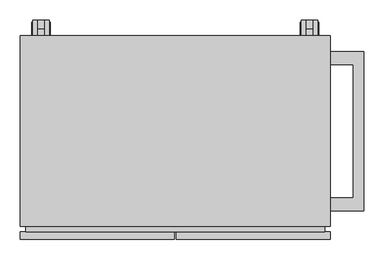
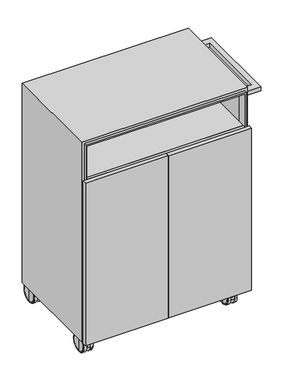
"""IFC4 building model written with IfcOpenShell, lengths in millimetres: furniture geometry, Steelcase Coalesse - Exponents - Storage - Moby : 19 3/4D X 30W X 42H."""

from ifc_helpers import new_model, si_unit, point, frame, frame_2d, origin, place, context, project, spatial, polyline, circle_curve, ellipse_curve, trimmed, segment, composite_curve, outline, extrude, faceted_brep, source, transform, mapped, element, save
from ifc_brep_helpers import plane_surface, cylinder_surface, revolved_surface, advanced_brep


def furniture_e831200a(model_context):
    return source(origin(), model_context, "Body", "SolidModel", [
        advanced_brep(
        [(27.94, 497.8146, 77.57023), (27.94, 497.8146, 7.16417), (27.94, 497.8146, 42.3672), (28.1659176, 497.8146, 79.7959885), (28.1659176, 497.8146, 4.9384115), (30.8610356, 497.8146, 82.9149652), (30.8610356, 497.8146, 1.8194348), (30.8610356, 497.8146, 84.7344), (30.8610356, 497.8146, 0.0), (41.6052, 497.8146, 84.7344), (41.6052, 497.8146, 0.0), (41.6052, 497.8146, 70.1188345), (41.6052, 497.8146, 14.6155655), (43.18, 497.8146, 70.1188345), (43.18, 497.8146, 14.6155655), (43.18, 497.8146, 42.3672)],
        [
            (0, 1, circle_curve(frame((27.94, 497.8146, 42.3672), z_axis=(-1.0, 0.0, 0.0), x_axis=(0.0, 0.0, -1.0)), 35.20303)),
            (1, 2),
            (2, 0),
            (1, 0, circle_curve(frame((27.94, 497.8146, 42.3672), z_axis=(-1.0, 0.0, 0.0), x_axis=(0.0, 0.0, -1.0)), 35.20303)),
            (3, 4, circle_curve(frame((28.1659176, 497.8146, 42.3672), z_axis=(-1.0, 0.0, 0.0), x_axis=(0.0, 0.0, -1.0)), 37.4287885)),
            (4, 1, circle_curve(frame((39.0171352, 497.8146, 7.16417), z_axis=(0.0, 1.0, 0.0), x_axis=(1.0, 0.0, 0.0)), 11.0771352)),
            (0, 3, circle_curve(frame((39.0171352, 497.8146, 77.57023), z_axis=(0.0, 1.0, 0.0), x_axis=(1.0, 0.0, 0.0)), 11.0771352)),
            (4, 3, circle_curve(frame((28.1659176, 497.8146, 42.3672), z_axis=(-1.0, 0.0, 0.0), x_axis=(0.0, 0.0, -1.0)), 37.4287885)),
            (5, 6, circle_curve(frame((30.8610356, 497.8146, 42.3672), z_axis=(-1.0, 0.0, 0.0), x_axis=(0.0, 0.0, -1.0)), 40.5477652)),
            (6, 4, circle_curve(frame((32.2994094, 497.8146, 5.7862568), z_axis=(0.0, 1.0, 0.0), x_axis=(1.0, 0.0, 0.0)), 4.2195493)),
            (3, 5, circle_curve(frame((32.2994094, 497.8146, 78.9481432), z_axis=(0.0, 1.0, 0.0), x_axis=(1.0, 0.0, 0.0)), 4.2195493)),
            (6, 5, circle_curve(frame((30.8610356, 497.8146, 42.3672), z_axis=(-1.0, 0.0, 0.0), x_axis=(0.0, 0.0, -1.0)), 40.5477652)),
            (7, 8, circle_curve(frame((30.8610356, 497.8146, 42.3672), z_axis=(-1.0, 0.0, 0.0), x_axis=(0.0, 0.0, -1.0)), 42.3672)),
            (8, 6),
            (5, 7),
            (8, 7, circle_curve(frame((30.8610356, 497.8146, 42.3672), z_axis=(-1.0, 0.0, 0.0), x_axis=(0.0, 0.0, -1.0)), 42.3672)),
            (9, 10, circle_curve(frame((41.6052, 497.8146, 42.3672), z_axis=(-1.0, 0.0, 0.0), x_axis=(0.0, 0.0, -1.0)), 42.3672)),
            (10, 8),
            (7, 9),
            (10, 9, circle_curve(frame((41.6052, 497.8146, 42.3672), z_axis=(-1.0, 0.0, 0.0), x_axis=(0.0, 0.0, -1.0)), 42.3672)),
            (11, 12, circle_curve(frame((41.6052, 497.8146, 42.3672), z_axis=(-1.0, 0.0, 0.0), x_axis=(0.0, 0.0, -1.0)), 27.7516345)),
            (12, 10),
            (9, 11),
            (12, 11, circle_curve(frame((41.6052, 497.8146, 42.3672), z_axis=(-1.0, 0.0, 0.0), x_axis=(0.0, 0.0, -1.0)), 27.7516345)),
            (13, 14, circle_curve(frame((43.18, 497.8146, 42.3672), z_axis=(-1.0, 0.0, 0.0), x_axis=(0.0, 0.0, -1.0)), 27.7516345)),
            (14, 12),
            (11, 13),
            (14, 13, circle_curve(frame((43.18, 497.8146, 42.3672), z_axis=(-1.0, 0.0, 0.0), x_axis=(0.0, 0.0, -1.0)), 27.7516345)),
            (15, 14),
            (13, 15),
        ],
        [
            plane_surface(frame((27.94, 497.8146, 42.3672), z_axis=(-1.0, 0.0, 0.0), x_axis=(0.0, 0.0, -1.0))),
            revolved_surface(trimmed(ellipse_curve(frame((39.0171352, 497.8146, 7.16417), z_axis=(0.0, -1.0, 0.0), x_axis=(1.0, 0.0, 0.0)), 11.0771352, 11.0771352), [point((27.94, 497.8146, 7.16417))], [point((28.1659176, 497.8146, 4.9384115))], True, "CARTESIAN"), (27.94, 497.8146, 42.3672), (1.0, 0.0, 0.0)),
            revolved_surface(trimmed(ellipse_curve(frame((32.2994094, 497.8146, 5.7862568), z_axis=(0.0, -1.0, 0.0), x_axis=(1.0, 0.0, 0.0)), 4.2195493, 4.2195493), [point((28.1659176, 497.8146, 4.9384115))], [point((30.8610356, 497.8146, 1.8194348))], True, "CARTESIAN"), (27.94, 497.8146, 42.3672), (1.0, 0.0, 0.0)),
            plane_surface(frame((30.8610356, 497.8146, 42.3672), z_axis=(-1.0, 0.0, 0.0), x_axis=(0.0, 0.0, -1.0))),
            cylinder_surface(frame((27.94, 497.8146, 42.3672), z_axis=(1.0, 0.0, 0.0), x_axis=(0.0, 0.0, -1.0)), 42.3672),
            plane_surface(frame((41.6052, 497.8146, 42.3672), z_axis=(1.0, 0.0, 0.0), x_axis=(0.0, 0.0, -1.0))),
            cylinder_surface(frame((27.94, 497.8146, 42.3672), z_axis=(1.0, 0.0, 0.0), x_axis=(0.0, 0.0, -1.0)), 27.7516345),
            plane_surface(frame((43.18, 497.8146, 42.3672), z_axis=(1.0, 0.0, 0.0), x_axis=(0.0, 0.0, -1.0))),
        ],
        [
            (0, [[1, 2, 3]]),
            (0, [[4, -3, -2]]),
            (1, [[5, 6, -1, 7]]),
            (1, [[8, -7, -4, -6]]),
            (2, [[9, 10, -5, 11]]),
            (2, [[12, -11, -8, -10]]),
            (3, [[13, 14, -9, 15]]),
            (3, [[16, -15, -12, -14]]),
            (4, [[17, 18, -13, 19]]),
            (4, [[20, -19, -16, -18]]),
            (5, [[21, 22, -17, 23]]),
            (5, [[24, -23, -20, -22]]),
            (6, [[25, 26, -21, 27]]),
            (6, [[28, -27, -24, -26]]),
            (7, [[29, -25, 30]]),
            (7, [[-30, -28, -29]]),
        ],
    ),
        extrude(outline(composite_curve([segment(polyline([(530.225, 37.9984), (455.7241881, 37.9984)]), True, "CONTINUOUS"), segment(trimmed(circle_curve(frame_2d((499.8868014, 39.2316684)), 44.1798299), [point((455.7241881, 37.9984))], [point((518.939747, 79.0919573))], False, "CARTESIAN"), True, "CONTINUOUS"), segment(trimmed(circle_curve(frame_2d((497.8199262, 42.3720906)), 42.360305), [point((518.939747, 79.0919573))], [point((530.225, 15.090107))], False, "CARTESIAN"), True, "CONTINUOUS"), segment(polyline([(530.225, 15.090107), (530.225, 37.9984)]), True, "CONTINUOUS")], self_intersect=False)), frame((43.18, 0.0, 0.0), z_axis=(1.0, 0.0, 0.0), x_axis=(0.0, 1.0, 0.0)), (0.0, 0.0, 1.0), 15.24),
        extrude(outline(composite_curve([segment(trimmed(circle_curve(frame_2d((50.8111483, 463.4713876)), 7.6088517), [point((43.2022966, 463.4713876))], [point((58.42, 463.4713876))], False, "CARTESIAN"), True, "CONTINUOUS"), segment(trimmed(circle_curve(frame_2d((50.8111483, 463.4713876)), 7.6088517), [point((58.42, 463.4713876))], [point((43.2022966, 463.4713876))], False, "CARTESIAN"), True, "CONTINUOUS")], self_intersect=False)), frame((0.0, 0.0, 49.9773023), z_axis=(0.0, 0.0, 1.0), x_axis=(1.0, 0.0, 0.0)), (0.0, 0.0, 1.0), 48.3206977),
        extrude(outline(polyline([(78.359, 491.109), (78.359, 435.991), (23.241, 435.991), (23.241, 491.109), (78.359, 491.109)])), frame((0.0, 0.0, 98.298), z_axis=(0.0, 0.0, 1.0), x_axis=(1.0, 0.0, 0.0)), (0.0, 0.0, 1.0), 3.302),
        advanced_brep(
        [(58.42, 497.8146, 70.1188345), (58.42, 497.8146, 14.6155655), (58.42, 497.8146, 42.3672), (59.9948, 497.8146, 70.1188345), (59.9948, 497.8146, 14.6155655), (59.9948, 497.8146, 84.7344), (59.9948, 497.8146, 0.0), (70.7389644, 497.8146, 84.7344), (70.7389644, 497.8146, 0.0), (70.7389644, 497.8146, 82.9149652), (70.7389644, 497.8146, 1.8194348), (73.4340824, 497.8146, 79.7959885), (73.4340824, 497.8146, 4.9384115), (73.66, 497.8146, 77.57023), (73.66, 497.8146, 7.16417), (73.66, 497.8146, 42.3672)],
        [
            (0, 1, circle_curve(frame((58.42, 497.8146, 42.3672), z_axis=(-1.0, 0.0, 0.0), x_axis=(0.0, 0.0, -1.0)), 27.7516345)),
            (1, 2),
            (2, 0),
            (1, 0, circle_curve(frame((58.42, 497.8146, 42.3672), z_axis=(-1.0, 0.0, 0.0), x_axis=(0.0, 0.0, -1.0)), 27.7516345)),
            (3, 4, circle_curve(frame((59.9948, 497.8146, 42.3672), z_axis=(-1.0, 0.0, 0.0), x_axis=(0.0, 0.0, -1.0)), 27.7516345)),
            (4, 1),
            (0, 3),
            (4, 3, circle_curve(frame((59.9948, 497.8146, 42.3672), z_axis=(-1.0, 0.0, 0.0), x_axis=(0.0, 0.0, -1.0)), 27.7516345)),
            (5, 6, circle_curve(frame((59.9948, 497.8146, 42.3672), z_axis=(-1.0, 0.0, 0.0), x_axis=(0.0, 0.0, -1.0)), 42.3672)),
            (6, 4),
            (3, 5),
            (6, 5, circle_curve(frame((59.9948, 497.8146, 42.3672), z_axis=(-1.0, 0.0, 0.0), x_axis=(0.0, 0.0, -1.0)), 42.3672)),
            (7, 8, circle_curve(frame((70.7389644, 497.8146, 42.3672), z_axis=(-1.0, 0.0, 0.0), x_axis=(0.0, 0.0, -1.0)), 42.3672)),
            (8, 6),
            (5, 7),
            (8, 7, circle_curve(frame((70.7389644, 497.8146, 42.3672), z_axis=(-1.0, 0.0, 0.0), x_axis=(0.0, 0.0, -1.0)), 42.3672)),
            (9, 10, circle_curve(frame((70.7389644, 497.8146, 42.3672), z_axis=(-1.0, 0.0, 0.0), x_axis=(0.0, 0.0, -1.0)), 40.5477652)),
            (10, 8),
            (7, 9),
            (10, 9, circle_curve(frame((70.7389644, 497.8146, 42.3672), z_axis=(-1.0, 0.0, 0.0), x_axis=(0.0, 0.0, -1.0)), 40.5477652)),
            (11, 12, circle_curve(frame((73.4340824, 497.8146, 42.3672), z_axis=(-1.0, 0.0, 0.0), x_axis=(0.0, 0.0, -1.0)), 37.4287885)),
            (12, 10, circle_curve(frame((69.3005906, 497.8146, 5.7862568), z_axis=(0.0, 1.0, 0.0), x_axis=(-1.0, 0.0, 0.0)), 4.2195493)),
            (9, 11, circle_curve(frame((69.3005906, 497.8146, 78.9481432), z_axis=(0.0, 1.0, 0.0), x_axis=(-1.0, 0.0, 0.0)), 4.2195493)),
            (12, 11, circle_curve(frame((73.4340824, 497.8146, 42.3672), z_axis=(-1.0, 0.0, 0.0), x_axis=(0.0, 0.0, -1.0)), 37.4287885)),
            (13, 14, circle_curve(frame((73.66, 497.8146, 42.3672), z_axis=(-1.0, 0.0, 0.0), x_axis=(0.0, 0.0, -1.0)), 35.20303)),
            (14, 12, circle_curve(frame((62.5828648, 497.8146, 7.16417), z_axis=(0.0, 1.0, 0.0), x_axis=(-1.0, 0.0, 0.0)), 11.0771352)),
            (11, 13, circle_curve(frame((62.5828648, 497.8146, 77.57023), z_axis=(0.0, 1.0, 0.0), x_axis=(-1.0, 0.0, 0.0)), 11.0771352)),
            (14, 13, circle_curve(frame((73.66, 497.8146, 42.3672), z_axis=(-1.0, 0.0, 0.0), x_axis=(0.0, 0.0, -1.0)), 35.20303)),
            (15, 14),
            (13, 15),
        ],
        [
            plane_surface(frame((58.42, 497.8146, 42.3672), z_axis=(-1.0, 0.0, 0.0), x_axis=(0.0, 0.0, -1.0))),
            cylinder_surface(frame((73.66, 497.8146, 42.3672), z_axis=(1.0, 0.0, 0.0), x_axis=(0.0, 0.0, -1.0)), 27.7516345),
            plane_surface(frame((59.9948, 497.8146, 42.3672), z_axis=(-1.0, 0.0, 0.0), x_axis=(0.0, 0.0, -1.0))),
            cylinder_surface(frame((73.66, 497.8146, 42.3672), z_axis=(1.0, 0.0, 0.0), x_axis=(0.0, 0.0, -1.0)), 42.3672),
            plane_surface(frame((70.7389644, 497.8146, 42.3672), z_axis=(1.0, 0.0, 0.0), x_axis=(0.0, 0.0, -1.0))),
            revolved_surface(trimmed(ellipse_curve(frame((69.3005906, 497.8146, 5.7862568), z_axis=(0.0, -1.0, 0.0), x_axis=(-1.0, 0.0, 0.0)), 4.2195493, 4.2195493), [point((70.7389644, 497.8146, 1.8194348))], [point((73.4340824, 497.8146, 4.9384115))], True, "CARTESIAN"), (73.66, 497.8146, 42.3672), (1.0, 0.0, 0.0)),
            revolved_surface(trimmed(ellipse_curve(frame((62.5828648, 497.8146, 7.16417), z_axis=(0.0, -1.0, 0.0), x_axis=(-1.0, 0.0, 0.0)), 11.0771352, 11.0771352), [point((73.4340824, 497.8146, 4.9384115))], [point((73.66, 497.8146, 7.16417))], True, "CARTESIAN"), (73.66, 497.8146, 42.3672), (1.0, 0.0, 0.0)),
            plane_surface(frame((73.66, 497.8146, 42.3672), z_axis=(1.0, 0.0, 0.0), x_axis=(0.0, 0.0, -1.0))),
        ],
        [
            (0, [[1, 2, 3]]),
            (0, [[4, -3, -2]]),
            (1, [[5, 6, -1, 7]]),
            (1, [[8, -7, -4, -6]]),
            (2, [[9, 10, -5, 11]]),
            (2, [[12, -11, -8, -10]]),
            (3, [[13, 14, -9, 15]]),
            (3, [[16, -15, -12, -14]]),
            (4, [[17, 18, -13, 19]]),
            (4, [[20, -19, -16, -18]]),
            (5, [[21, 22, -17, 23]]),
            (5, [[24, -23, -20, -22]]),
            (6, [[25, 26, -21, 27]]),
            (6, [[28, -27, -24, -26]]),
            (7, [[29, -25, 30]]),
            (7, [[-30, -28, -29]]),
        ],
    ),
        advanced_brep(
        [(27.94, 104.1146, 77.57023), (27.94, 104.1146, 7.16417), (27.94, 104.1146, 42.3672), (28.1659176, 104.1146, 79.7959885), (28.1659176, 104.1146, 4.9384115), (30.8610356, 104.1146, 82.9149652), (30.8610356, 104.1146, 1.8194348), (30.8610356, 104.1146, 84.7344), (30.8610356, 104.1146, 0.0), (41.6052, 104.1146, 84.7344), (41.6052, 104.1146, 0.0), (41.6052, 104.1146, 70.1188345), (41.6052, 104.1146, 14.6155655), (43.18, 104.1146, 70.1188345), (43.18, 104.1146, 14.6155655), (43.18, 104.1146, 42.3672)],
        [
            (0, 1, circle_curve(frame((27.94, 104.1146, 42.3672), z_axis=(-1.0, 0.0, 0.0), x_axis=(0.0, 0.0, -1.0)), 35.20303)),
            (1, 2),
            (2, 0),
            (1, 0, circle_curve(frame((27.94, 104.1146, 42.3672), z_axis=(-1.0, 0.0, 0.0), x_axis=(0.0, 0.0, -1.0)), 35.20303)),
            (3, 4, circle_curve(frame((28.1659176, 104.1146, 42.3672), z_axis=(-1.0, 0.0, 0.0), x_axis=(0.0, 0.0, -1.0)), 37.4287885)),
            (4, 1, circle_curve(frame((39.0171352, 104.1146, 7.16417), z_axis=(0.0, 1.0, 0.0), x_axis=(1.0, 0.0, 0.0)), 11.0771352)),
            (0, 3, circle_curve(frame((39.0171352, 104.1146, 77.57023), z_axis=(0.0, 1.0, 0.0), x_axis=(1.0, 0.0, 0.0)), 11.0771352)),
            (4, 3, circle_curve(frame((28.1659176, 104.1146, 42.3672), z_axis=(-1.0, 0.0, 0.0), x_axis=(0.0, 0.0, -1.0)), 37.4287885)),
            (5, 6, circle_curve(frame((30.8610356, 104.1146, 42.3672), z_axis=(-1.0, 0.0, 0.0), x_axis=(0.0, 0.0, -1.0)), 40.5477652)),
            (6, 4, circle_curve(frame((32.2994094, 104.1146, 5.7862568), z_axis=(0.0, 1.0, 0.0), x_axis=(1.0, 0.0, 0.0)), 4.2195493)),
            (3, 5, circle_curve(frame((32.2994094, 104.1146, 78.9481432), z_axis=(0.0, 1.0, 0.0), x_axis=(1.0, 0.0, 0.0)), 4.2195493)),
            (6, 5, circle_curve(frame((30.8610356, 104.1146, 42.3672), z_axis=(-1.0, 0.0, 0.0), x_axis=(0.0, 0.0, -1.0)), 40.5477652)),
            (7, 8, circle_curve(frame((30.8610356, 104.1146, 42.3672), z_axis=(-1.0, 0.0, 0.0), x_axis=(0.0, 0.0, -1.0)), 42.3672)),
            (8, 6),
            (5, 7),
            (8, 7, circle_curve(frame((30.8610356, 104.1146, 42.3672), z_axis=(-1.0, 0.0, 0.0), x_axis=(0.0, 0.0, -1.0)), 42.3672)),
            (9, 10, circle_curve(frame((41.6052, 104.1146, 42.3672), z_axis=(-1.0, 0.0, 0.0), x_axis=(0.0, 0.0, -1.0)), 42.3672)),
            (10, 8),
            (7, 9),
            (10, 9, circle_curve(frame((41.6052, 104.1146, 42.3672), z_axis=(-1.0, 0.0, 0.0), x_axis=(0.0, 0.0, -1.0)), 42.3672)),
            (11, 12, circle_curve(frame((41.6052, 104.1146, 42.3672), z_axis=(-1.0, 0.0, 0.0), x_axis=(0.0, 0.0, -1.0)), 27.7516345)),
            (12, 10),
            (9, 11),
            (12, 11, circle_curve(frame((41.6052, 104.1146, 42.3672), z_axis=(-1.0, 0.0, 0.0), x_axis=(0.0, 0.0, -1.0)), 27.7516345)),
            (13, 14, circle_curve(frame((43.18, 104.1146, 42.3672), z_axis=(-1.0, 0.0, 0.0), x_axis=(0.0, 0.0, -1.0)), 27.7516345)),
            (14, 12),
            (11, 13),
            (14, 13, circle_curve(frame((43.18, 104.1146, 42.3672), z_axis=(-1.0, 0.0, 0.0), x_axis=(0.0, 0.0, -1.0)), 27.7516345)),
            (15, 14),
            (13, 15),
        ],
        [
            plane_surface(frame((27.94, 104.1146, 42.3672), z_axis=(-1.0, 0.0, 0.0), x_axis=(0.0, 0.0, -1.0))),
            revolved_surface(trimmed(ellipse_curve(frame((39.0171352, 104.1146, 7.16417), z_axis=(0.0, -1.0, 0.0), x_axis=(1.0, 0.0, 0.0)), 11.0771352, 11.0771352), [point((27.94, 104.1146, 7.16417))], [point((28.1659176, 104.1146, 4.9384115))], True, "CARTESIAN"), (27.94, 104.1146, 42.3672), (1.0, 0.0, 0.0)),
            revolved_surface(trimmed(ellipse_curve(frame((32.2994094, 104.1146, 5.7862568), z_axis=(0.0, -1.0, 0.0), x_axis=(1.0, 0.0, 0.0)), 4.2195493, 4.2195493), [point((28.1659176, 104.1146, 4.9384115))], [point((30.8610356, 104.1146, 1.8194348))], True, "CARTESIAN"), (27.94, 104.1146, 42.3672), (1.0, 0.0, 0.0)),
            plane_surface(frame((30.8610356, 104.1146, 42.3672), z_axis=(-1.0, 0.0, 0.0), x_axis=(0.0, 0.0, -1.0))),
            cylinder_surface(frame((27.94, 104.1146, 42.3672), z_axis=(1.0, 0.0, 0.0), x_axis=(0.0, 0.0, -1.0)), 42.3672),
            plane_surface(frame((41.6052, 104.1146, 42.3672), z_axis=(1.0, 0.0, 0.0), x_axis=(0.0, 0.0, -1.0))),
            cylinder_surface(frame((27.94, 104.1146, 42.3672), z_axis=(1.0, 0.0, 0.0), x_axis=(0.0, 0.0, -1.0)), 27.7516345),
            plane_surface(frame((43.18, 104.1146, 42.3672), z_axis=(1.0, 0.0, 0.0), x_axis=(0.0, 0.0, -1.0))),
        ],
        [
            (0, [[1, 2, 3]]),
            (0, [[4, -3, -2]]),
            (1, [[5, 6, -1, 7]]),
            (1, [[8, -7, -4, -6]]),
            (2, [[9, 10, -5, 11]]),
            (2, [[12, -11, -8, -10]]),
            (3, [[13, 14, -9, 15]]),
            (3, [[16, -15, -12, -14]]),
            (4, [[17, 18, -13, 19]]),
            (4, [[20, -19, -16, -18]]),
            (5, [[21, 22, -17, 23]]),
            (5, [[24, -23, -20, -22]]),
            (6, [[25, 26, -21, 27]]),
            (6, [[28, -27, -24, -26]]),
            (7, [[29, -25, 30]]),
            (7, [[-30, -28, -29]]),
        ],
    ),
        extrude(outline(composite_curve([segment(polyline([(136.525, 37.9984), (62.0241881, 37.9984)]), True, "CONTINUOUS"), segment(trimmed(circle_curve(frame_2d((106.1868014, 39.2316684)), 44.1798299), [point((62.0241881, 37.9984))], [point((125.239747, 79.0919573))], False, "CARTESIAN"), True, "CONTINUOUS"), segment(trimmed(circle_curve(frame_2d((104.1199262, 42.3720906)), 42.360305), [point((125.239747, 79.0919573))], [point((136.525, 15.090107))], False, "CARTESIAN"), True, "CONTINUOUS"), segment(polyline([(136.525, 15.090107), (136.525, 37.9984)]), True, "CONTINUOUS")], self_intersect=False)), frame((43.18, 0.0, 0.0), z_axis=(1.0, 0.0, 0.0), x_axis=(0.0, 1.0, 0.0)), (0.0, 0.0, 1.0), 15.24),
        extrude(outline(composite_curve([segment(trimmed(circle_curve(frame_2d((50.8111483, 69.7713876)), 7.6088517), [point((43.2022966, 69.7713876))], [point((58.42, 69.7713876))], False, "CARTESIAN"), True, "CONTINUOUS"), segment(trimmed(circle_curve(frame_2d((50.8111483, 69.7713876)), 7.6088517), [point((58.42, 69.7713876))], [point((43.2022966, 69.7713876))], False, "CARTESIAN"), True, "CONTINUOUS")], self_intersect=False)), frame((0.0, 0.0, 49.9773023), z_axis=(0.0, 0.0, 1.0), x_axis=(1.0, 0.0, 0.0)), (0.0, 0.0, 1.0), 48.3206977),
        extrude(outline(polyline([(78.359, 97.409), (78.359, 42.291), (23.241, 42.291), (23.241, 97.409), (78.359, 97.409)])), frame((0.0, 0.0, 98.298), z_axis=(0.0, 0.0, 1.0), x_axis=(1.0, 0.0, 0.0)), (0.0, 0.0, 1.0), 3.302),
        advanced_brep(
        [(58.42, 104.1146, 70.1188345), (58.42, 104.1146, 14.6155655), (58.42, 104.1146, 42.3672), (59.9948, 104.1146, 70.1188345), (59.9948, 104.1146, 14.6155655), (59.9948, 104.1146, 84.7344), (59.9948, 104.1146, 0.0), (70.7389644, 104.1146, 84.7344), (70.7389644, 104.1146, 0.0), (70.7389644, 104.1146, 82.9149652), (70.7389644, 104.1146, 1.8194348), (73.4340824, 104.1146, 79.7959885), (73.4340824, 104.1146, 4.9384115), (73.66, 104.1146, 77.57023), (73.66, 104.1146, 7.16417), (73.66, 104.1146, 42.3672)],
        [
            (0, 1, circle_curve(frame((58.42, 104.1146, 42.3672), z_axis=(-1.0, 0.0, 0.0), x_axis=(0.0, 0.0, -1.0)), 27.7516345)),
            (1, 2),
            (2, 0),
            (1, 0, circle_curve(frame((58.42, 104.1146, 42.3672), z_axis=(-1.0, 0.0, 0.0), x_axis=(0.0, 0.0, -1.0)), 27.7516345)),
            (3, 4, circle_curve(frame((59.9948, 104.1146, 42.3672), z_axis=(-1.0, 0.0, 0.0), x_axis=(0.0, 0.0, -1.0)), 27.7516345)),
            (4, 1),
            (0, 3),
            (4, 3, circle_curve(frame((59.9948, 104.1146, 42.3672), z_axis=(-1.0, 0.0, 0.0), x_axis=(0.0, 0.0, -1.0)), 27.7516345)),
            (5, 6, circle_curve(frame((59.9948, 104.1146, 42.3672), z_axis=(-1.0, 0.0, 0.0), x_axis=(0.0, 0.0, -1.0)), 42.3672)),
            (6, 4),
            (3, 5),
            (6, 5, circle_curve(frame((59.9948, 104.1146, 42.3672), z_axis=(-1.0, 0.0, 0.0), x_axis=(0.0, 0.0, -1.0)), 42.3672)),
            (7, 8, circle_curve(frame((70.7389644, 104.1146, 42.3672), z_axis=(-1.0, 0.0, 0.0), x_axis=(0.0, 0.0, -1.0)), 42.3672)),
            (8, 6),
            (5, 7),
            (8, 7, circle_curve(frame((70.7389644, 104.1146, 42.3672), z_axis=(-1.0, 0.0, 0.0), x_axis=(0.0, 0.0, -1.0)), 42.3672)),
            (9, 10, circle_curve(frame((70.7389644, 104.1146, 42.3672), z_axis=(-1.0, 0.0, 0.0), x_axis=(0.0, 0.0, -1.0)), 40.5477652)),
            (10, 8),
            (7, 9),
            (10, 9, circle_curve(frame((70.7389644, 104.1146, 42.3672), z_axis=(-1.0, 0.0, 0.0), x_axis=(0.0, 0.0, -1.0)), 40.5477652)),
            (11, 12, circle_curve(frame((73.4340824, 104.1146, 42.3672), z_axis=(-1.0, 0.0, 0.0), x_axis=(0.0, 0.0, -1.0)), 37.4287885)),
            (12, 10, circle_curve(frame((69.3005906, 104.1146, 5.7862568), z_axis=(0.0, 1.0, 0.0), x_axis=(-1.0, 0.0, 0.0)), 4.2195493)),
            (9, 11, circle_curve(frame((69.3005906, 104.1146, 78.9481432), z_axis=(0.0, 1.0, 0.0), x_axis=(-1.0, 0.0, 0.0)), 4.2195493)),
            (12, 11, circle_curve(frame((73.4340824, 104.1146, 42.3672), z_axis=(-1.0, 0.0, 0.0), x_axis=(0.0, 0.0, -1.0)), 37.4287885)),
            (13, 14, circle_curve(frame((73.66, 104.1146, 42.3672), z_axis=(-1.0, 0.0, 0.0), x_axis=(0.0, 0.0, -1.0)), 35.20303)),
            (14, 12, circle_curve(frame((62.5828648, 104.1146, 7.16417), z_axis=(0.0, 1.0, 0.0), x_axis=(-1.0, 0.0, 0.0)), 11.0771352)),
            (11, 13, circle_curve(frame((62.5828648, 104.1146, 77.57023), z_axis=(0.0, 1.0, 0.0), x_axis=(-1.0, 0.0, 0.0)), 11.0771352)),
            (14, 13, circle_curve(frame((73.66, 104.1146, 42.3672), z_axis=(-1.0, 0.0, 0.0), x_axis=(0.0, 0.0, -1.0)), 35.20303)),
            (15, 14),
            (13, 15),
        ],
        [
            plane_surface(frame((58.42, 104.1146, 42.3672), z_axis=(-1.0, 0.0, 0.0), x_axis=(0.0, 0.0, -1.0))),
            cylinder_surface(frame((73.66, 104.1146, 42.3672), z_axis=(1.0, 0.0, 0.0), x_axis=(0.0, 0.0, -1.0)), 27.7516345),
            plane_surface(frame((59.9948, 104.1146, 42.3672), z_axis=(-1.0, 0.0, 0.0), x_axis=(0.0, 0.0, -1.0))),
            cylinder_surface(frame((73.66, 104.1146, 42.3672), z_axis=(1.0, 0.0, 0.0), x_axis=(0.0, 0.0, -1.0)), 42.3672),
            plane_surface(frame((70.7389644, 104.1146, 42.3672), z_axis=(1.0, 0.0, 0.0), x_axis=(0.0, 0.0, -1.0))),
            revolved_surface(trimmed(ellipse_curve(frame((69.3005906, 104.1146, 5.7862568), z_axis=(0.0, -1.0, 0.0), x_axis=(-1.0, 0.0, 0.0)), 4.2195493, 4.2195493), [point((70.7389644, 104.1146, 1.8194348))], [point((73.4340824, 104.1146, 4.9384115))], True, "CARTESIAN"), (73.66, 104.1146, 42.3672), (1.0, 0.0, 0.0)),
            revolved_surface(trimmed(ellipse_curve(frame((62.5828648, 104.1146, 7.16417), z_axis=(0.0, -1.0, 0.0), x_axis=(-1.0, 0.0, 0.0)), 11.0771352, 11.0771352), [point((73.4340824, 104.1146, 4.9384115))], [point((73.66, 104.1146, 7.16417))], True, "CARTESIAN"), (73.66, 104.1146, 42.3672), (1.0, 0.0, 0.0)),
            plane_surface(frame((73.66, 104.1146, 42.3672), z_axis=(1.0, 0.0, 0.0), x_axis=(0.0, 0.0, -1.0))),
        ],
        [
            (0, [[1, 2, 3]]),
            (0, [[4, -3, -2]]),
            (1, [[5, 6, -1, 7]]),
            (1, [[8, -7, -4, -6]]),
            (2, [[9, 10, -5, 11]]),
            (2, [[12, -11, -8, -10]]),
            (3, [[13, 14, -9, 15]]),
            (3, [[16, -15, -12, -14]]),
            (4, [[17, 18, -13, 19]]),
            (4, [[20, -19, -16, -18]]),
            (5, [[21, 22, -17, 23]]),
            (5, [[24, -23, -20, -22]]),
            (6, [[25, 26, -21, 27]]),
            (6, [[28, -27, -24, -26]]),
            (7, [[29, -25, 30]]),
            (7, [[-30, -28, -29]]),
        ],
    ),
        advanced_brep(
        [(688.34, 497.8146, 77.57023), (688.34, 497.8146, 7.16417), (688.34, 497.8146, 42.3672), (688.5659176, 497.8146, 79.7959885), (688.5659176, 497.8146, 4.9384115), (691.2610356, 497.8146, 82.9149652), (691.2610356, 497.8146, 1.8194348), (691.2610356, 497.8146, 84.7344), (691.2610356, 497.8146, 0.0), (702.0052, 497.8146, 84.7344), (702.0052, 497.8146, 0.0), (702.0052, 497.8146, 70.1188345), (702.0052, 497.8146, 14.6155655), (703.58, 497.8146, 70.1188345), (703.58, 497.8146, 14.6155655), (703.58, 497.8146, 42.3672)],
        [
            (0, 1, circle_curve(frame((688.34, 497.8146, 42.3672), z_axis=(-1.0, 0.0, 0.0), x_axis=(0.0, 0.0, -1.0)), 35.20303)),
            (1, 2),
            (2, 0),
            (1, 0, circle_curve(frame((688.34, 497.8146, 42.3672), z_axis=(-1.0, 0.0, 0.0), x_axis=(0.0, 0.0, -1.0)), 35.20303)),
            (3, 4, circle_curve(frame((688.5659176, 497.8146, 42.3672), z_axis=(-1.0, 0.0, 0.0), x_axis=(0.0, 0.0, -1.0)), 37.4287885)),
            (4, 1, circle_curve(frame((699.4171352, 497.8146, 7.16417), z_axis=(0.0, 1.0, 0.0), x_axis=(1.0, 0.0, 0.0)), 11.0771352)),
            (0, 3, circle_curve(frame((699.4171352, 497.8146, 77.57023), z_axis=(0.0, 1.0, 0.0), x_axis=(1.0, 0.0, 0.0)), 11.0771352)),
            (4, 3, circle_curve(frame((688.5659176, 497.8146, 42.3672), z_axis=(-1.0, 0.0, 0.0), x_axis=(0.0, 0.0, -1.0)), 37.4287885)),
            (5, 6, circle_curve(frame((691.2610356, 497.8146, 42.3672), z_axis=(-1.0, 0.0, 0.0), x_axis=(0.0, 0.0, -1.0)), 40.5477652)),
            (6, 4, circle_curve(frame((692.6994094, 497.8146, 5.7862568), z_axis=(0.0, 1.0, 0.0), x_axis=(1.0, 0.0, 0.0)), 4.2195493)),
            (3, 5, circle_curve(frame((692.6994094, 497.8146, 78.9481432), z_axis=(0.0, 1.0, 0.0), x_axis=(1.0, 0.0, 0.0)), 4.2195493)),
            (6, 5, circle_curve(frame((691.2610356, 497.8146, 42.3672), z_axis=(-1.0, 0.0, 0.0), x_axis=(0.0, 0.0, -1.0)), 40.5477652)),
            (7, 8, circle_curve(frame((691.2610356, 497.8146, 42.3672), z_axis=(-1.0, 0.0, 0.0), x_axis=(0.0, 0.0, -1.0)), 42.3672)),
            (8, 6),
            (5, 7),
            (8, 7, circle_curve(frame((691.2610356, 497.8146, 42.3672), z_axis=(-1.0, 0.0, 0.0), x_axis=(0.0, 0.0, -1.0)), 42.3672)),
            (9, 10, circle_curve(frame((702.0052, 497.8146, 42.3672), z_axis=(-1.0, 0.0, 0.0), x_axis=(0.0, 0.0, -1.0)), 42.3672)),
            (10, 8),
            (7, 9),
            (10, 9, circle_curve(frame((702.0052, 497.8146, 42.3672), z_axis=(-1.0, 0.0, 0.0), x_axis=(0.0, 0.0, -1.0)), 42.3672)),
            (11, 12, circle_curve(frame((702.0052, 497.8146, 42.3672), z_axis=(-1.0, 0.0, 0.0), x_axis=(0.0, 0.0, -1.0)), 27.7516345)),
            (12, 10),
            (9, 11),
            (12, 11, circle_curve(frame((702.0052, 497.8146, 42.3672), z_axis=(-1.0, 0.0, 0.0), x_axis=(0.0, 0.0, -1.0)), 27.7516345)),
            (13, 14, circle_curve(frame((703.58, 497.8146, 42.3672), z_axis=(-1.0, 0.0, 0.0), x_axis=(0.0, 0.0, -1.0)), 27.7516345)),
            (14, 12),
            (11, 13),
            (14, 13, circle_curve(frame((703.58, 497.8146, 42.3672), z_axis=(-1.0, 0.0, 0.0), x_axis=(0.0, 0.0, -1.0)), 27.7516345)),
            (15, 14),
            (13, 15),
        ],
        [
            plane_surface(frame((688.34, 497.8146, 42.3672), z_axis=(-1.0, 0.0, 0.0), x_axis=(0.0, 0.0, -1.0))),
            revolved_surface(trimmed(ellipse_curve(frame((699.4171352, 497.8146, 7.16417), z_axis=(0.0, -1.0, 0.0), x_axis=(1.0, 0.0, 0.0)), 11.0771352, 11.0771352), [point((688.34, 497.8146, 7.16417))], [point((688.5659176, 497.8146, 4.9384115))], True, "CARTESIAN"), (688.34, 497.8146, 42.3672), (1.0, 0.0, 0.0)),
            revolved_surface(trimmed(ellipse_curve(frame((692.6994094, 497.8146, 5.7862568), z_axis=(0.0, -1.0, 0.0), x_axis=(1.0, 0.0, 0.0)), 4.2195493, 4.2195493), [point((688.5659176, 497.8146, 4.9384115))], [point((691.2610356, 497.8146, 1.8194348))], True, "CARTESIAN"), (688.34, 497.8146, 42.3672), (1.0, 0.0, 0.0)),
            plane_surface(frame((691.2610356, 497.8146, 42.3672), z_axis=(-1.0, 0.0, 0.0), x_axis=(0.0, 0.0, -1.0))),
            cylinder_surface(frame((688.34, 497.8146, 42.3672), z_axis=(1.0, 0.0, 0.0), x_axis=(0.0, 0.0, -1.0)), 42.3672),
            plane_surface(frame((702.0052, 497.8146, 42.3672), z_axis=(1.0, 0.0, 0.0), x_axis=(0.0, 0.0, -1.0))),
            cylinder_surface(frame((688.34, 497.8146, 42.3672), z_axis=(1.0, 0.0, 0.0), x_axis=(0.0, 0.0, -1.0)), 27.7516345),
            plane_surface(frame((703.58, 497.8146, 42.3672), z_axis=(1.0, 0.0, 0.0), x_axis=(0.0, 0.0, -1.0))),
        ],
        [
            (0, [[1, 2, 3]]),
            (0, [[4, -3, -2]]),
            (1, [[5, 6, -1, 7]]),
            (1, [[8, -7, -4, -6]]),
            (2, [[9, 10, -5, 11]]),
            (2, [[12, -11, -8, -10]]),
            (3, [[13, 14, -9, 15]]),
            (3, [[16, -15, -12, -14]]),
            (4, [[17, 18, -13, 19]]),
            (4, [[20, -19, -16, -18]]),
            (5, [[21, 22, -17, 23]]),
            (5, [[24, -23, -20, -22]]),
            (6, [[25, 26, -21, 27]]),
            (6, [[28, -27, -24, -26]]),
            (7, [[29, -25, 30]]),
            (7, [[-30, -28, -29]]),
        ],
    ),
        extrude(outline(composite_curve([segment(polyline([(530.225, 37.9984), (455.7241881, 37.9984)]), True, "CONTINUOUS"), segment(trimmed(circle_curve(frame_2d((499.8868014, 39.2316684)), 44.1798299), [point((455.7241881, 37.9984))], [point((518.939747, 79.0919573))], False, "CARTESIAN"), True, "CONTINUOUS"), segment(trimmed(circle_curve(frame_2d((497.8199262, 42.3720906)), 42.360305), [point((518.939747, 79.0919573))], [point((530.225, 15.090107))], False, "CARTESIAN"), True, "CONTINUOUS"), segment(polyline([(530.225, 15.090107), (530.225, 37.9984)]), True, "CONTINUOUS")], self_intersect=False)), frame((703.58, 0.0, 0.0), z_axis=(1.0, 0.0, 0.0), x_axis=(0.0, 1.0, 0.0)), (0.0, 0.0, 1.0), 15.24),
        extrude(outline(composite_curve([segment(trimmed(circle_curve(frame_2d((711.2111483, 463.4713876)), 7.6088517), [point((703.6022966, 463.4713876))], [point((718.82, 463.4713876))], False, "CARTESIAN"), True, "CONTINUOUS"), segment(trimmed(circle_curve(frame_2d((711.2111483, 463.4713876)), 7.6088517), [point((718.82, 463.4713876))], [point((703.6022966, 463.4713876))], False, "CARTESIAN"), True, "CONTINUOUS")], self_intersect=False)), frame((0.0, 0.0, 49.9773023), z_axis=(0.0, 0.0, 1.0), x_axis=(1.0, 0.0, 0.0)), (0.0, 0.0, 1.0), 48.3206977),
        extrude(outline(polyline([(738.759, 491.109), (738.759, 435.991), (683.641, 435.991), (683.641, 491.109), (738.759, 491.109)])), frame((0.0, 0.0, 98.298), z_axis=(0.0, 0.0, 1.0), x_axis=(1.0, 0.0, 0.0)), (0.0, 0.0, 1.0), 3.302),
        advanced_brep(
        [(718.82, 497.8146, 70.1188345), (718.82, 497.8146, 14.6155655), (718.82, 497.8146, 42.3672), (720.3948, 497.8146, 70.1188345), (720.3948, 497.8146, 14.6155655), (720.3948, 497.8146, 84.7344), (720.3948, 497.8146, 0.0), (731.1389644, 497.8146, 84.7344), (731.1389644, 497.8146, 0.0), (731.1389644, 497.8146, 82.9149652), (731.1389644, 497.8146, 1.8194348), (733.8340824, 497.8146, 79.7959885), (733.8340824, 497.8146, 4.9384115), (734.06, 497.8146, 77.57023), (734.06, 497.8146, 7.16417), (734.06, 497.8146, 42.3672)],
        [
            (0, 1, circle_curve(frame((718.82, 497.8146, 42.3672), z_axis=(-1.0, 0.0, 0.0), x_axis=(0.0, 0.0, -1.0)), 27.7516345)),
            (1, 2),
            (2, 0),
            (1, 0, circle_curve(frame((718.82, 497.8146, 42.3672), z_axis=(-1.0, 0.0, 0.0), x_axis=(0.0, 0.0, -1.0)), 27.7516345)),
            (3, 4, circle_curve(frame((720.3948, 497.8146, 42.3672), z_axis=(-1.0, 0.0, 0.0), x_axis=(0.0, 0.0, -1.0)), 27.7516345)),
            (4, 1),
            (0, 3),
            (4, 3, circle_curve(frame((720.3948, 497.8146, 42.3672), z_axis=(-1.0, 0.0, 0.0), x_axis=(0.0, 0.0, -1.0)), 27.7516345)),
            (5, 6, circle_curve(frame((720.3948, 497.8146, 42.3672), z_axis=(-1.0, 0.0, 0.0), x_axis=(0.0, 0.0, -1.0)), 42.3672)),
            (6, 4),
            (3, 5),
            (6, 5, circle_curve(frame((720.3948, 497.8146, 42.3672), z_axis=(-1.0, 0.0, 0.0), x_axis=(0.0, 0.0, -1.0)), 42.3672)),
            (7, 8, circle_curve(frame((731.1389644, 497.8146, 42.3672), z_axis=(-1.0, 0.0, 0.0), x_axis=(0.0, 0.0, -1.0)), 42.3672)),
            (8, 6),
            (5, 7),
            (8, 7, circle_curve(frame((731.1389644, 497.8146, 42.3672), z_axis=(-1.0, 0.0, 0.0), x_axis=(0.0, 0.0, -1.0)), 42.3672)),
            (9, 10, circle_curve(frame((731.1389644, 497.8146, 42.3672), z_axis=(-1.0, 0.0, 0.0), x_axis=(0.0, 0.0, -1.0)), 40.5477652)),
            (10, 8),
            (7, 9),
            (10, 9, circle_curve(frame((731.1389644, 497.8146, 42.3672), z_axis=(-1.0, 0.0, 0.0), x_axis=(0.0, 0.0, -1.0)), 40.5477652)),
            (11, 12, circle_curve(frame((733.8340824, 497.8146, 42.3672), z_axis=(-1.0, 0.0, 0.0), x_axis=(0.0, 0.0, -1.0)), 37.4287885)),
            (12, 10, circle_curve(frame((729.7005906, 497.8146, 5.7862568), z_axis=(0.0, 1.0, 0.0), x_axis=(-1.0, 0.0, 0.0)), 4.2195493)),
            (9, 11, circle_curve(frame((729.7005906, 497.8146, 78.9481432), z_axis=(0.0, 1.0, 0.0), x_axis=(-1.0, 0.0, 0.0)), 4.2195493)),
            (12, 11, circle_curve(frame((733.8340824, 497.8146, 42.3672), z_axis=(-1.0, 0.0, 0.0), x_axis=(0.0, 0.0, -1.0)), 37.4287885)),
            (13, 14, circle_curve(frame((734.06, 497.8146, 42.3672), z_axis=(-1.0, 0.0, 0.0), x_axis=(0.0, 0.0, -1.0)), 35.20303)),
            (14, 12, circle_curve(frame((722.9828648, 497.8146, 7.16417), z_axis=(0.0, 1.0, 0.0), x_axis=(-1.0, 0.0, 0.0)), 11.0771352)),
            (11, 13, circle_curve(frame((722.9828648, 497.8146, 77.57023), z_axis=(0.0, 1.0, 0.0), x_axis=(-1.0, 0.0, 0.0)), 11.0771352)),
            (14, 13, circle_curve(frame((734.06, 497.8146, 42.3672), z_axis=(-1.0, 0.0, 0.0), x_axis=(0.0, 0.0, -1.0)), 35.20303)),
            (15, 14),
            (13, 15),
        ],
        [
            plane_surface(frame((718.82, 497.8146, 42.3672), z_axis=(-1.0, 0.0, 0.0), x_axis=(0.0, 0.0, -1.0))),
            cylinder_surface(frame((734.06, 497.8146, 42.3672), z_axis=(1.0, 0.0, 0.0), x_axis=(0.0, 0.0, -1.0)), 27.7516345),
            plane_surface(frame((720.3948, 497.8146, 42.3672), z_axis=(-1.0, 0.0, 0.0), x_axis=(0.0, 0.0, -1.0))),
            cylinder_surface(frame((734.06, 497.8146, 42.3672), z_axis=(1.0, 0.0, 0.0), x_axis=(0.0, 0.0, -1.0)), 42.3672),
            plane_surface(frame((731.1389644, 497.8146, 42.3672), z_axis=(1.0, 0.0, 0.0), x_axis=(0.0, 0.0, -1.0))),
            revolved_surface(trimmed(ellipse_curve(frame((729.7005906, 497.8146, 5.7862568), z_axis=(0.0, -1.0, 0.0), x_axis=(-1.0, 0.0, 0.0)), 4.2195493, 4.2195493), [point((731.1389644, 497.8146, 1.8194348))], [point((733.8340824, 497.8146, 4.9384115))], True, "CARTESIAN"), (734.06, 497.8146, 42.3672), (1.0, 0.0, 0.0)),
            revolved_surface(trimmed(ellipse_curve(frame((722.9828648, 497.8146, 7.16417), z_axis=(0.0, -1.0, 0.0), x_axis=(-1.0, 0.0, 0.0)), 11.0771352, 11.0771352), [point((733.8340824, 497.8146, 4.9384115))], [point((734.06, 497.8146, 7.16417))], True, "CARTESIAN"), (734.06, 497.8146, 42.3672), (1.0, 0.0, 0.0)),
            plane_surface(frame((734.06, 497.8146, 42.3672), z_axis=(1.0, 0.0, 0.0), x_axis=(0.0, 0.0, -1.0))),
        ],
        [
            (0, [[1, 2, 3]]),
            (0, [[4, -3, -2]]),
            (1, [[5, 6, -1, 7]]),
            (1, [[8, -7, -4, -6]]),
            (2, [[9, 10, -5, 11]]),
            (2, [[12, -11, -8, -10]]),
            (3, [[13, 14, -9, 15]]),
            (3, [[16, -15, -12, -14]]),
            (4, [[17, 18, -13, 19]]),
            (4, [[20, -19, -16, -18]]),
            (5, [[21, 22, -17, 23]]),
            (5, [[24, -23, -20, -22]]),
            (6, [[25, 26, -21, 27]]),
            (6, [[28, -27, -24, -26]]),
            (7, [[29, -25, 30]]),
            (7, [[-30, -28, -29]]),
        ],
    ),
        advanced_brep(
        [(688.34, 104.1146, 77.57023), (688.34, 104.1146, 7.16417), (688.34, 104.1146, 42.3672), (688.5659176, 104.1146, 79.7959885), (688.5659176, 104.1146, 4.9384115), (691.2610356, 104.1146, 82.9149652), (691.2610356, 104.1146, 1.8194348), (691.2610356, 104.1146, 84.7344), (691.2610356, 104.1146, 0.0), (702.0052, 104.1146, 84.7344), (702.0052, 104.1146, 0.0), (702.0052, 104.1146, 70.1188345), (702.0052, 104.1146, 14.6155655), (703.58, 104.1146, 70.1188345), (703.58, 104.1146, 14.6155655), (703.58, 104.1146, 42.3672)],
        [
            (0, 1, circle_curve(frame((688.34, 104.1146, 42.3672), z_axis=(-1.0, 0.0, 0.0), x_axis=(0.0, 0.0, -1.0)), 35.20303)),
            (1, 2),
            (2, 0),
            (1, 0, circle_curve(frame((688.34, 104.1146, 42.3672), z_axis=(-1.0, 0.0, 0.0), x_axis=(0.0, 0.0, -1.0)), 35.20303)),
            (3, 4, circle_curve(frame((688.5659176, 104.1146, 42.3672), z_axis=(-1.0, 0.0, 0.0), x_axis=(0.0, 0.0, -1.0)), 37.4287885)),
            (4, 1, circle_curve(frame((699.4171352, 104.1146, 7.16417), z_axis=(0.0, 1.0, 0.0), x_axis=(1.0, 0.0, 0.0)), 11.0771352)),
            (0, 3, circle_curve(frame((699.4171352, 104.1146, 77.57023), z_axis=(0.0, 1.0, 0.0), x_axis=(1.0, 0.0, 0.0)), 11.0771352)),
            (4, 3, circle_curve(frame((688.5659176, 104.1146, 42.3672), z_axis=(-1.0, 0.0, 0.0), x_axis=(0.0, 0.0, -1.0)), 37.4287885)),
            (5, 6, circle_curve(frame((691.2610356, 104.1146, 42.3672), z_axis=(-1.0, 0.0, 0.0), x_axis=(0.0, 0.0, -1.0)), 40.5477652)),
            (6, 4, circle_curve(frame((692.6994094, 104.1146, 5.7862568), z_axis=(0.0, 1.0, 0.0), x_axis=(1.0, 0.0, 0.0)), 4.2195493)),
            (3, 5, circle_curve(frame((692.6994094, 104.1146, 78.9481432), z_axis=(0.0, 1.0, 0.0), x_axis=(1.0, 0.0, 0.0)), 4.2195493)),
            (6, 5, circle_curve(frame((691.2610356, 104.1146, 42.3672), z_axis=(-1.0, 0.0, 0.0), x_axis=(0.0, 0.0, -1.0)), 40.5477652)),
            (7, 8, circle_curve(frame((691.2610356, 104.1146, 42.3672), z_axis=(-1.0, 0.0, 0.0), x_axis=(0.0, 0.0, -1.0)), 42.3672)),
            (8, 6),
            (5, 7),
            (8, 7, circle_curve(frame((691.2610356, 104.1146, 42.3672), z_axis=(-1.0, 0.0, 0.0), x_axis=(0.0, 0.0, -1.0)), 42.3672)),
            (9, 10, circle_curve(frame((702.0052, 104.1146, 42.3672), z_axis=(-1.0, 0.0, 0.0), x_axis=(0.0, 0.0, -1.0)), 42.3672)),
            (10, 8),
            (7, 9),
            (10, 9, circle_curve(frame((702.0052, 104.1146, 42.3672), z_axis=(-1.0, 0.0, 0.0), x_axis=(0.0, 0.0, -1.0)), 42.3672)),
            (11, 12, circle_curve(frame((702.0052, 104.1146, 42.3672), z_axis=(-1.0, 0.0, 0.0), x_axis=(0.0, 0.0, -1.0)), 27.7516345)),
            (12, 10),
            (9, 11),
            (12, 11, circle_curve(frame((702.0052, 104.1146, 42.3672), z_axis=(-1.0, 0.0, 0.0), x_axis=(0.0, 0.0, -1.0)), 27.7516345)),
            (13, 14, circle_curve(frame((703.58, 104.1146, 42.3672), z_axis=(-1.0, 0.0, 0.0), x_axis=(0.0, 0.0, -1.0)), 27.7516345)),
            (14, 12),
            (11, 13),
            (14, 13, circle_curve(frame((703.58, 104.1146, 42.3672), z_axis=(-1.0, 0.0, 0.0), x_axis=(0.0, 0.0, -1.0)), 27.7516345)),
            (15, 14),
            (13, 15),
        ],
        [
            plane_surface(frame((688.34, 104.1146, 42.3672), z_axis=(-1.0, 0.0, 0.0), x_axis=(0.0, 0.0, -1.0))),
            revolved_surface(trimmed(ellipse_curve(frame((699.4171352, 104.1146, 7.16417), z_axis=(0.0, -1.0, 0.0), x_axis=(1.0, 0.0, 0.0)), 11.0771352, 11.0771352), [point((688.34, 104.1146, 7.16417))], [point((688.5659176, 104.1146, 4.9384115))], True, "CARTESIAN"), (688.34, 104.1146, 42.3672), (1.0, 0.0, 0.0)),
            revolved_surface(trimmed(ellipse_curve(frame((692.6994094, 104.1146, 5.7862568), z_axis=(0.0, -1.0, 0.0), x_axis=(1.0, 0.0, 0.0)), 4.2195493, 4.2195493), [point((688.5659176, 104.1146, 4.9384115))], [point((691.2610356, 104.1146, 1.8194348))], True, "CARTESIAN"), (688.34, 104.1146, 42.3672), (1.0, 0.0, 0.0)),
            plane_surface(frame((691.2610356, 104.1146, 42.3672), z_axis=(-1.0, 0.0, 0.0), x_axis=(0.0, 0.0, -1.0))),
            cylinder_surface(frame((688.34, 104.1146, 42.3672), z_axis=(1.0, 0.0, 0.0), x_axis=(0.0, 0.0, -1.0)), 42.3672),
            plane_surface(frame((702.0052, 104.1146, 42.3672), z_axis=(1.0, 0.0, 0.0), x_axis=(0.0, 0.0, -1.0))),
            cylinder_surface(frame((688.34, 104.1146, 42.3672), z_axis=(1.0, 0.0, 0.0), x_axis=(0.0, 0.0, -1.0)), 27.7516345),
            plane_surface(frame((703.58, 104.1146, 42.3672), z_axis=(1.0, 0.0, 0.0), x_axis=(0.0, 0.0, -1.0))),
        ],
        [
            (0, [[1, 2, 3]]),
            (0, [[4, -3, -2]]),
            (1, [[5, 6, -1, 7]]),
            (1, [[8, -7, -4, -6]]),
            (2, [[9, 10, -5, 11]]),
            (2, [[12, -11, -8, -10]]),
            (3, [[13, 14, -9, 15]]),
            (3, [[16, -15, -12, -14]]),
            (4, [[17, 18, -13, 19]]),
            (4, [[20, -19, -16, -18]]),
            (5, [[21, 22, -17, 23]]),
            (5, [[24, -23, -20, -22]]),
            (6, [[25, 26, -21, 27]]),
            (6, [[28, -27, -24, -26]]),
            (7, [[29, -25, 30]]),
            (7, [[-30, -28, -29]]),
        ],
    ),
        extrude(outline(composite_curve([segment(polyline([(136.525, 37.9984), (62.0241881, 37.9984)]), True, "CONTINUOUS"), segment(trimmed(circle_curve(frame_2d((106.1868014, 39.2316684)), 44.1798299), [point((62.0241881, 37.9984))], [point((125.239747, 79.0919573))], False, "CARTESIAN"), True, "CONTINUOUS"), segment(trimmed(circle_curve(frame_2d((104.1199262, 42.3720906)), 42.360305), [point((125.239747, 79.0919573))], [point((136.525, 15.090107))], False, "CARTESIAN"), True, "CONTINUOUS"), segment(polyline([(136.525, 15.090107), (136.525, 37.9984)]), True, "CONTINUOUS")], self_intersect=False)), frame((703.58, 0.0, 0.0), z_axis=(1.0, 0.0, 0.0), x_axis=(0.0, 1.0, 0.0)), (0.0, 0.0, 1.0), 15.24),
        extrude(outline(composite_curve([segment(trimmed(circle_curve(frame_2d((711.2111483, 69.7713876)), 7.6088517), [point((703.6022966, 69.7713876))], [point((718.82, 69.7713876))], False, "CARTESIAN"), True, "CONTINUOUS"), segment(trimmed(circle_curve(frame_2d((711.2111483, 69.7713876)), 7.6088517), [point((718.82, 69.7713876))], [point((703.6022966, 69.7713876))], False, "CARTESIAN"), True, "CONTINUOUS")], self_intersect=False)), frame((0.0, 0.0, 49.9773023), z_axis=(0.0, 0.0, 1.0), x_axis=(1.0, 0.0, 0.0)), (0.0, 0.0, 1.0), 48.3206977),
        extrude(outline(polyline([(738.759, 97.409), (738.759, 42.291), (683.641, 42.291), (683.641, 97.409), (738.759, 97.409)])), frame((0.0, 0.0, 98.298), z_axis=(0.0, 0.0, 1.0), x_axis=(1.0, 0.0, 0.0)), (0.0, 0.0, 1.0), 3.302),
        advanced_brep(
        [(718.82, 104.1146, 70.1188345), (718.82, 104.1146, 14.6155655), (718.82, 104.1146, 42.3672), (720.3948, 104.1146, 70.1188345), (720.3948, 104.1146, 14.6155655), (720.3948, 104.1146, 84.7344), (720.3948, 104.1146, 0.0), (731.1389644, 104.1146, 84.7344), (731.1389644, 104.1146, 0.0), (731.1389644, 104.1146, 82.9149652), (731.1389644, 104.1146, 1.8194348), (733.8340824, 104.1146, 79.7959885), (733.8340824, 104.1146, 4.9384115), (734.06, 104.1146, 77.57023), (734.06, 104.1146, 7.16417), (734.06, 104.1146, 42.3672)],
        [
            (0, 1, circle_curve(frame((718.82, 104.1146, 42.3672), z_axis=(-1.0, 0.0, 0.0), x_axis=(0.0, 0.0, -1.0)), 27.7516345)),
            (1, 2),
            (2, 0),
            (1, 0, circle_curve(frame((718.82, 104.1146, 42.3672), z_axis=(-1.0, 0.0, 0.0), x_axis=(0.0, 0.0, -1.0)), 27.7516345)),
            (3, 4, circle_curve(frame((720.3948, 104.1146, 42.3672), z_axis=(-1.0, 0.0, 0.0), x_axis=(0.0, 0.0, -1.0)), 27.7516345)),
            (4, 1),
            (0, 3),
            (4, 3, circle_curve(frame((720.3948, 104.1146, 42.3672), z_axis=(-1.0, 0.0, 0.0), x_axis=(0.0, 0.0, -1.0)), 27.7516345)),
            (5, 6, circle_curve(frame((720.3948, 104.1146, 42.3672), z_axis=(-1.0, 0.0, 0.0), x_axis=(0.0, 0.0, -1.0)), 42.3672)),
            (6, 4),
            (3, 5),
            (6, 5, circle_curve(frame((720.3948, 104.1146, 42.3672), z_axis=(-1.0, 0.0, 0.0), x_axis=(0.0, 0.0, -1.0)), 42.3672)),
            (7, 8, circle_curve(frame((731.1389644, 104.1146, 42.3672), z_axis=(-1.0, 0.0, 0.0), x_axis=(0.0, 0.0, -1.0)), 42.3672)),
            (8, 6),
            (5, 7),
            (8, 7, circle_curve(frame((731.1389644, 104.1146, 42.3672), z_axis=(-1.0, 0.0, 0.0), x_axis=(0.0, 0.0, -1.0)), 42.3672)),
            (9, 10, circle_curve(frame((731.1389644, 104.1146, 42.3672), z_axis=(-1.0, 0.0, 0.0), x_axis=(0.0, 0.0, -1.0)), 40.5477652)),
            (10, 8),
            (7, 9),
            (10, 9, circle_curve(frame((731.1389644, 104.1146, 42.3672), z_axis=(-1.0, 0.0, 0.0), x_axis=(0.0, 0.0, -1.0)), 40.5477652)),
            (11, 12, circle_curve(frame((733.8340824, 104.1146, 42.3672), z_axis=(-1.0, 0.0, 0.0), x_axis=(0.0, 0.0, -1.0)), 37.4287885)),
            (12, 10, circle_curve(frame((729.7005906, 104.1146, 5.7862568), z_axis=(0.0, 1.0, 0.0), x_axis=(-1.0, 0.0, 0.0)), 4.2195493)),
            (9, 11, circle_curve(frame((729.7005906, 104.1146, 78.9481432), z_axis=(0.0, 1.0, 0.0), x_axis=(-1.0, 0.0, 0.0)), 4.2195493)),
            (12, 11, circle_curve(frame((733.8340824, 104.1146, 42.3672), z_axis=(-1.0, 0.0, 0.0), x_axis=(0.0, 0.0, -1.0)), 37.4287885)),
            (13, 14, circle_curve(frame((734.06, 104.1146, 42.3672), z_axis=(-1.0, 0.0, 0.0), x_axis=(0.0, 0.0, -1.0)), 35.20303)),
            (14, 12, circle_curve(frame((722.9828648, 104.1146, 7.16417), z_axis=(0.0, 1.0, 0.0), x_axis=(-1.0, 0.0, 0.0)), 11.0771352)),
            (11, 13, circle_curve(frame((722.9828648, 104.1146, 77.57023), z_axis=(0.0, 1.0, 0.0), x_axis=(-1.0, 0.0, 0.0)), 11.0771352)),
            (14, 13, circle_curve(frame((734.06, 104.1146, 42.3672), z_axis=(-1.0, 0.0, 0.0), x_axis=(0.0, 0.0, -1.0)), 35.20303)),
            (15, 14),
            (13, 15),
        ],
        [
            plane_surface(frame((718.82, 104.1146, 42.3672), z_axis=(-1.0, 0.0, 0.0), x_axis=(0.0, 0.0, -1.0))),
            cylinder_surface(frame((734.06, 104.1146, 42.3672), z_axis=(1.0, 0.0, 0.0), x_axis=(0.0, 0.0, -1.0)), 27.7516345),
            plane_surface(frame((720.3948, 104.1146, 42.3672), z_axis=(-1.0, 0.0, 0.0), x_axis=(0.0, 0.0, -1.0))),
            cylinder_surface(frame((734.06, 104.1146, 42.3672), z_axis=(1.0, 0.0, 0.0), x_axis=(0.0, 0.0, -1.0)), 42.3672),
            plane_surface(frame((731.1389644, 104.1146, 42.3672), z_axis=(1.0, 0.0, 0.0), x_axis=(0.0, 0.0, -1.0))),
            revolved_surface(trimmed(ellipse_curve(frame((729.7005906, 104.1146, 5.7862568), z_axis=(0.0, -1.0, 0.0), x_axis=(-1.0, 0.0, 0.0)), 4.2195493, 4.2195493), [point((731.1389644, 104.1146, 1.8194348))], [point((733.8340824, 104.1146, 4.9384115))], True, "CARTESIAN"), (734.06, 104.1146, 42.3672), (1.0, 0.0, 0.0)),
            revolved_surface(trimmed(ellipse_curve(frame((722.9828648, 104.1146, 7.16417), z_axis=(0.0, -1.0, 0.0), x_axis=(-1.0, 0.0, 0.0)), 11.0771352, 11.0771352), [point((733.8340824, 104.1146, 4.9384115))], [point((734.06, 104.1146, 7.16417))], True, "CARTESIAN"), (734.06, 104.1146, 42.3672), (1.0, 0.0, 0.0)),
            plane_surface(frame((734.06, 104.1146, 42.3672), z_axis=(1.0, 0.0, 0.0), x_axis=(0.0, 0.0, -1.0))),
        ],
        [
            (0, [[1, 2, 3]]),
            (0, [[4, -3, -2]]),
            (1, [[5, 6, -1, 7]]),
            (1, [[8, -7, -4, -6]]),
            (2, [[9, 10, -5, 11]]),
            (2, [[12, -11, -8, -10]]),
            (3, [[13, 14, -9, 15]]),
            (3, [[16, -15, -12, -14]]),
            (4, [[17, 18, -13, 19]]),
            (4, [[20, -19, -16, -18]]),
            (5, [[21, 22, -17, 23]]),
            (5, [[24, -23, -20, -22]]),
            (6, [[25, 26, -21, 27]]),
            (6, [[28, -27, -24, -26]]),
            (7, [[29, -25, 30]]),
            (7, [[-30, -28, -29]]),
        ],
    ),
        faceted_brep([(762.0, 31.75, 1066.8), (762.0, 31.75, 101.6), (762.0, 501.65, 101.6), (762.0, 501.65, 1066.8), (0.0, 31.75, 1066.8), (0.0, 501.65, 1066.8), (0.0, 501.65, 101.6), (0.0, 31.75, 101.6), (19.05, 31.75, 1054.1), (742.823, 31.75, 1054.1), (742.823, 31.75, 887.9078), (19.05, 31.75, 887.9078), (19.558, 31.75, 868.3498), (742.823, 31.75, 868.3498), (742.823, 31.75, 120.65), (19.558, 31.75, 120.65), (742.823, 482.6, 1054.1), (19.05, 482.6, 1054.1), (19.05, 482.6, 887.9078), (742.823, 482.6, 887.9078), (742.823, 482.6, 868.3498), (19.558, 482.6, 868.3498), (19.558, 482.6, 120.65), (742.823, 482.6, 120.65)], [[[0, 1, 2, 3]], [[4, 5, 6, 7]], [[1, 0, 4, 7], [8, 9, 10, 11], [12, 13, 14, 15]], [[2, 1, 7, 6]], [[3, 2, 6, 5]], [[0, 3, 5, 4]], [[16, 17, 18, 19]], [[20, 21, 22, 23]], [[17, 16, 9, 8]], [[18, 17, 8, 11]], [[19, 18, 11, 10]], [[16, 19, 10, 9]], [[21, 20, 13, 12]], [[22, 21, 12, 15]], [[23, 22, 15, 14]], [[20, 23, 14, 13]]]),
        extrude(outline(polyline([(378.714, 0.0), (0.0, 0.0), (0.0, 19.05), (378.714, 19.05), (378.714, 0.0)])), frame((0.0, 0.0, 101.6), z_axis=(0.0, 0.0, 1.0), x_axis=(1.0, 0.0, 0.0)), (0.0, 0.0, 1.0), 785.7998),
        extrude(outline(polyline([(762.0, 0.0), (383.286, 0.0), (383.286, 19.05), (762.0, 19.05), (762.0, 0.0)])), frame((0.0, 0.0, 101.6), z_axis=(0.0, 0.0, 1.0), x_axis=(1.0, 0.0, 0.0)), (0.0, 0.0, 1.0), 785.7998),
        extrude(outline(polyline([(1054.1, 748.792), (1054.1, 13.208), (101.6, 13.208), (101.6, 19.558), (881.5578, 19.558), (881.5578, 378.714), (101.6, 378.714), (101.6, 383.286), (881.5578, 383.286), (881.5578, 742.823), (101.6, 742.823), (101.6, 748.792), (1054.1, 748.792)]), holes=[polyline([(1047.75, 742.442), (887.9078, 742.442), (887.9078, 19.558), (1047.75, 19.558), (1047.75, 742.442)])]), frame((0.0, 19.05, 0.0), z_axis=(0.0, 1.0, 0.0), x_axis=(0.0, 0.0, 1.0)), (0.0, 0.0, 1.0), 44.45),
        extrude(outline(polyline([(762.0, 462.9404), (844.55, 462.9404), (844.55, 70.4596), (762.0, 70.4596), (762.0, 102.2096), (819.15, 102.2096), (819.15, 431.1904), (762.0, 431.1904), (762.0, 462.9404)])), frame((0.0, 0.0, 996.95), z_axis=(0.0, 0.0, 1.0), x_axis=(1.0, 0.0, 0.0)), (0.0, 0.0, 1.0), 19.05),
    ])


if __name__ == "__main__":
    model = new_model("IFC4")
    model_context = context("Model", 3, world=origin())
    ifc_project = project(units=[si_unit("LENGTHUNIT", "METRE", prefix="MILLI")], contexts=[model_context])
    site = spatial("IfcSite", under=ifc_project)
    building = spatial("IfcBuilding", under=site)
    placement = place(None, origin())
    furniture_shape = furniture_e831200a(model_context)
    element("IfcFurniture", 1, ObjectType="Steelcase Coalesse - Exponents - Storage - Moby : 19 3/4D X 30W X 42H", at=placement, inside=building, context=model_context, shape_type="MappedRepresentation", body=[
        mapped(furniture_shape, transform((0.0, 0.0, 0.0), x_axis=(1.0, 0.0, 0.0), y_axis=(0.0, 1.0, 0.0), z_axis=(0.0, 0.0, 1.0))),
    ])
    save(model, "model.ifc")
